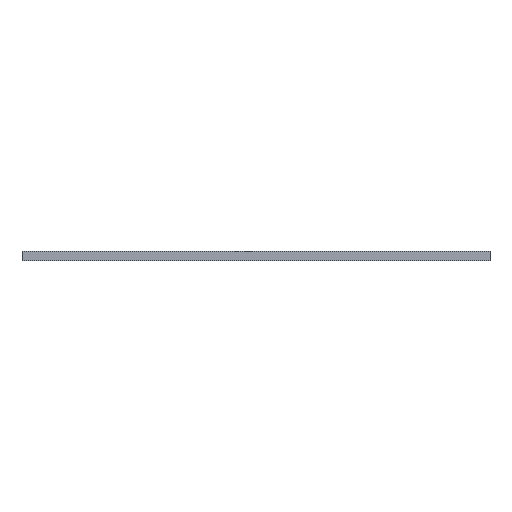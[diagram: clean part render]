
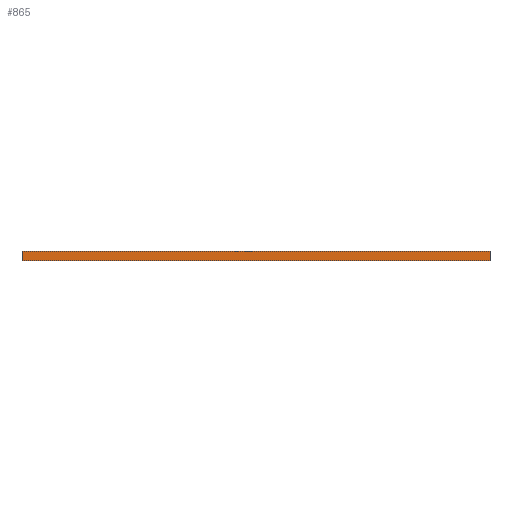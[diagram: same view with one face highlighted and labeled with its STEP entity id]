
A CAD part, front view. The second image highlights one B-rep face of the part: STEP entity #865.
In plain terms, the highlighted planar face has unit normal (0, -1, 0).
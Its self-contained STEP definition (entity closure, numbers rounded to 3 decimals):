
#1=DIRECTION('',(1.,0.,0.));
#2=VECTOR('',#1,47.5);
#3=CARTESIAN_POINT('',(0.,0.,0.));
#4=LINE('',#3,#2);
#159=DIRECTION('',(0.,0.,1.));
#160=VECTOR('',#159,1.);
#161=CARTESIAN_POINT('',(0.,0.,0.));
#162=LINE('',#161,#160);
#171=DIRECTION('',(0.,0.,1.));
#172=VECTOR('',#171,1.);
#173=CARTESIAN_POINT('',(47.5,0.,0.));
#174=LINE('',#173,#172);
#175=DIRECTION('',(1.,0.,0.));
#176=VECTOR('',#175,47.5);
#177=CARTESIAN_POINT('',(0.,0.,1.));
#178=LINE('',#177,#176);
#565=CARTESIAN_POINT('',(0.,0.,0.));
#566=CARTESIAN_POINT('',(47.5,0.,0.));
#567=VERTEX_POINT('',#565);
#568=VERTEX_POINT('',#566);
#573=CARTESIAN_POINT('',(0.,0.,1.));
#574=CARTESIAN_POINT('',(47.5,0.,1.));
#575=VERTEX_POINT('',#573);
#576=VERTEX_POINT('',#574);
#851=CARTESIAN_POINT('',(0.,0.,0.));
#852=DIRECTION('',(0.,-1.,0.));
#853=DIRECTION('',(1.,0.,0.));
#854=AXIS2_PLACEMENT_3D('',#851,#852,#853);
#855=PLANE('',#854);
#856=ORIENTED_EDGE('',*,*,#738,.F.);
#858=ORIENTED_EDGE('',*,*,#857,.T.);
#860=ORIENTED_EDGE('',*,*,#859,.T.);
#862=ORIENTED_EDGE('',*,*,#861,.F.);
#863=EDGE_LOOP('',(#856,#858,#860,#862));
#864=FACE_OUTER_BOUND('',#863,.F.);
#865=ADVANCED_FACE('',(#864),#855,.T.);
#738=EDGE_CURVE('',#567,#568,#4,.T.);
#857=EDGE_CURVE('',#567,#575,#162,.T.);
#859=EDGE_CURVE('',#575,#576,#178,.T.);
#861=EDGE_CURVE('',#568,#576,#174,.T.);
